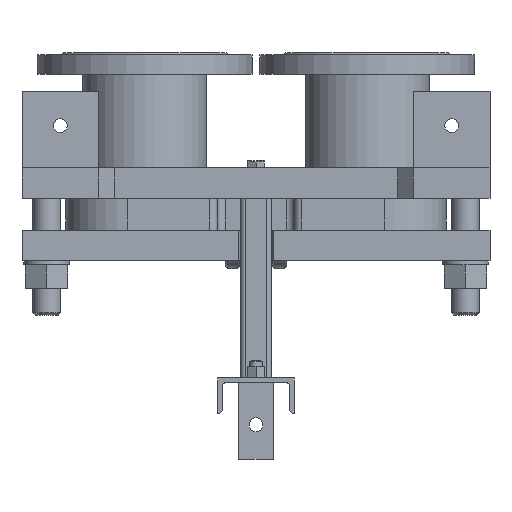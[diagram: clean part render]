
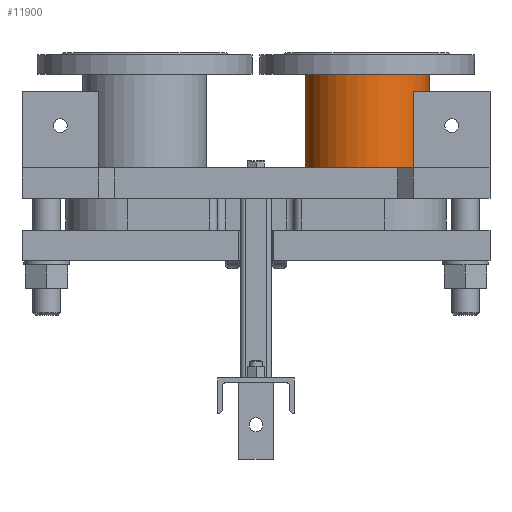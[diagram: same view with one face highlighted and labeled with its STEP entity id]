
A CAD part, front view. The second image highlights one B-rep face of the part: STEP entity #11900.
In plain terms, the highlighted cylindrical face has radius 80.5 mm (diameter 161 mm), a full revolution.
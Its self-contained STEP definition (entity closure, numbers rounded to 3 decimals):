
#736=LINE('',#20239,#1836);
#1836=VECTOR('',#14902,145.);
#2704=CYLINDRICAL_SURFACE('',#12909,80.5);
#3134=FACE_OUTER_BOUND('',#3903,.T.);
#3903=EDGE_LOOP('',(#8925,#8926,#8927,#8928));
#4691=CIRCLE('',#12841,80.5);
#4695=CIRCLE('',#12910,80.5);
#5381=VERTEX_POINT('',#20101);
#5385=VERTEX_POINT('',#20238);
#6611=EDGE_CURVE('',#5381,#5381,#4691,.F.);
#6679=EDGE_CURVE('',#5381,#5385,#736,.T.);
#6680=EDGE_CURVE('',#5385,#5385,#4695,.T.);
#8925=ORIENTED_EDGE('',*,*,#6611,.T.);
#8926=ORIENTED_EDGE('',*,*,#6679,.T.);
#8927=ORIENTED_EDGE('',*,*,#6680,.T.);
#8928=ORIENTED_EDGE('',*,*,#6679,.F.);
#11900=ADVANCED_FACE('',(#3134),#2704,.T.);
#12841=AXIS2_PLACEMENT_3D('',#20102,#14700,#14701);
#12909=AXIS2_PLACEMENT_3D('',#20237,#14900,#14901);
#12910=AXIS2_PLACEMENT_3D('',#20240,#14903,#14904);
#14700=DIRECTION('center_axis',(0.,0.,
-1.));
#14701=DIRECTION('ref_axis',(-1.,0.,0.));
#14900=DIRECTION('center_axis',(0.,0.,
-1.));
#14901=DIRECTION('ref_axis',(-1.,0.,0.));
#14902=DIRECTION('',(0.,0.,1.));
#14903=DIRECTION('center_axis',(0.,0.,
-1.));
#14904=DIRECTION('ref_axis',(-1.,0.,0.));
#20101=CARTESIAN_POINT('',(225.5,280.,40.));
#20102=CARTESIAN_POINT('Origin',(145.,280.,40.));
#20237=CARTESIAN_POINT('Origin',(145.,280.,185.));
#20238=CARTESIAN_POINT('',(225.5,280.,185.));
#20239=CARTESIAN_POINT('',(225.5,280.,185.));
#20240=CARTESIAN_POINT('Origin',(145.,280.,185.));
